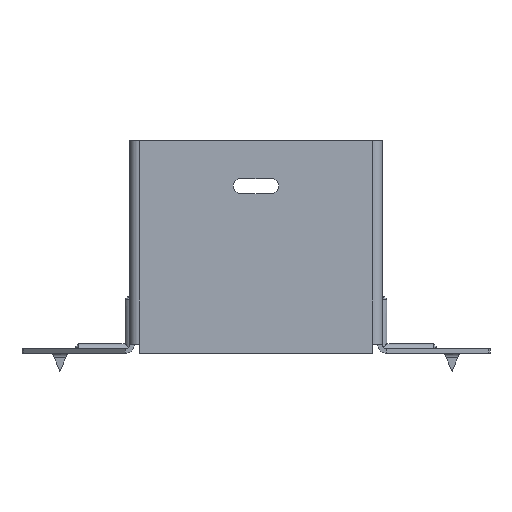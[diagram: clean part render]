
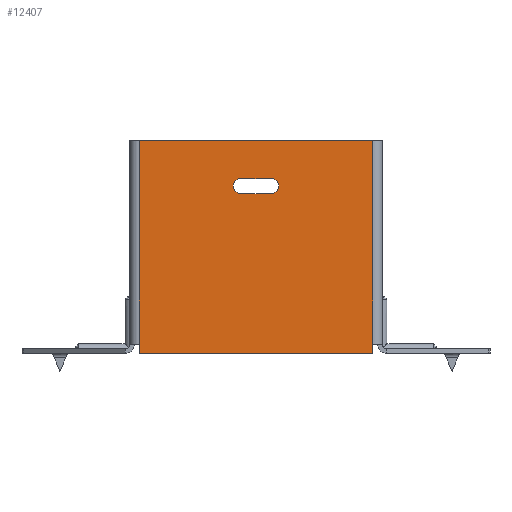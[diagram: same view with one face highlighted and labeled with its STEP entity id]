
A CAD part, front view. The second image highlights one B-rep face of the part: STEP entity #12407.
In plain terms, the highlighted planar face has unit normal (0, -1, 0).
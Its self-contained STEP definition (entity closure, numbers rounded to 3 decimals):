
#188 = CARTESIAN_POINT ( 'NONE',  ( 5., 0., -12.5 ) ) ;
#247 = DIRECTION ( 'NONE',  ( 0., 0., -1. ) ) ;
#558 = VERTEX_POINT ( 'NONE', #18655 ) ;
#651 = VERTEX_POINT ( 'NONE', #14261 ) ;
#681 = ORIENTED_EDGE ( 'NONE', *, *, #7850, .T. ) ;
#773 = DIRECTION ( 'NONE',  ( 0., 0., -1. ) ) ;
#1050 = EDGE_CURVE ( 'NONE', #11151, #8108, #6127, .T. ) ;
#1330 = ORIENTED_EDGE ( 'NONE', *, *, #11593, .T. ) ;
#1410 = FACE_BOUND ( 'NONE', #3388, .T. ) ;
#1460 = ORIENTED_EDGE ( 'NONE', *, *, #15744, .T. ) ;
#1619 = DIRECTION ( 'NONE',  ( 0., 0., 1. ) ) ;
#1853 = EDGE_CURVE ( 'NONE', #14357, #16051, #2053, .T. ) ;
#2053 = LINE ( 'NONE', #17018, #9038 ) ;
#2194 = DIRECTION ( 'NONE',  ( 0., 0., 1. ) ) ;
#2280 = ORIENTED_EDGE ( 'NONE', *, *, #15047, .T. ) ;
#2407 = ORIENTED_EDGE ( 'NONE', *, *, #5898, .F. ) ;
#2551 = LINE ( 'NONE', #15891, #9099 ) ;
#2689 = EDGE_CURVE ( 'NONE', #7103, #651, #8320, .T. ) ;
#3388 = EDGE_LOOP ( 'NONE', ( #10075, #2280, #9000, #681 ) ) ;
#3678 = CARTESIAN_POINT ( 'NONE',  ( -38.5, 0., 0. ) ) ;
#3724 = DIRECTION ( 'NONE',  ( 0., 0., 1. ) ) ;
#3757 = CARTESIAN_POINT ( 'NONE',  ( -38.5, 0., 0. ) ) ;
#3958 = PLANE ( 'NONE',  #16187 ) ;
#5160 = CARTESIAN_POINT ( 'NONE',  ( -5., 0., -15. ) ) ;
#5163 = EDGE_LOOP ( 'NONE', ( #7304, #1330, #15687, #1460, #12340, #2407 ) ) ;
#5363 = VERTEX_POINT ( 'NONE', #11733 ) ;
#5898 = EDGE_CURVE ( 'NONE', #7103, #5363, #7676, .T. ) ;
#6127 = LINE ( 'NONE', #17045, #7487 ) ;
#6855 = CARTESIAN_POINT ( 'NONE',  ( -5., 0., -12.5 ) ) ;
#6938 = CARTESIAN_POINT ( 'NONE',  ( 38.5, 0., -70. ) ) ;
#7103 = VERTEX_POINT ( 'NONE', #3757 ) ;
#7139 = AXIS2_PLACEMENT_3D ( 'NONE', #5160, #18062, #3724 ) ;
#7147 = VERTEX_POINT ( 'NONE', #6938 ) ;
#7304 = ORIENTED_EDGE ( 'NONE', *, *, #2689, .T. ) ;
#7487 = VECTOR ( 'NONE', #14167, 1000. ) ;
#7676 = LINE ( 'NONE', #13413, #17813 ) ;
#7824 = EDGE_CURVE ( 'NONE', #7147, #15212, #13185, .T. ) ;
#7850 = EDGE_CURVE ( 'NONE', #8108, #14357, #16089, .T. ) ;
#7909 = VECTOR ( 'NONE', #773, 1000. ) ;
#8108 = VERTEX_POINT ( 'NONE', #188 ) ;
#8320 = LINE ( 'NONE', #3678, #7909 ) ;
#8435 = VECTOR ( 'NONE', #16297, 1000. ) ;
#8826 = CARTESIAN_POINT ( 'NONE',  ( -5., 0., -17.5 ) ) ;
#9000 = ORIENTED_EDGE ( 'NONE', *, *, #1050, .T. ) ;
#9038 = VECTOR ( 'NONE', #11500, 1000. ) ;
#9099 = VECTOR ( 'NONE', #247, 1000. ) ;
#10075 = ORIENTED_EDGE ( 'NONE', *, *, #1853, .T. ) ;
#10312 = VECTOR ( 'NONE', #1619, 1000. ) ;
#10458 = CARTESIAN_POINT ( 'NONE',  ( -40., 0., -70. ) ) ;
#10521 = DIRECTION ( 'NONE',  ( 1., 0., 0. ) ) ;
#10994 = CARTESIAN_POINT ( 'NONE',  ( 0., 0., 0. ) ) ;
#11151 = VERTEX_POINT ( 'NONE', #6855 ) ;
#11346 = CARTESIAN_POINT ( 'NONE',  ( 5., 0., -17.5 ) ) ;
#11500 = DIRECTION ( 'NONE',  ( -1., 0., 0. ) ) ;
#11593 = EDGE_CURVE ( 'NONE', #651, #15212, #2551, .T. ) ;
#11691 = CARTESIAN_POINT ( 'NONE',  ( -38.5, 0., -70. ) ) ;
#11733 = CARTESIAN_POINT ( 'NONE',  ( 38.5, 0., 0. ) ) ;
#12113 = CARTESIAN_POINT ( 'NONE',  ( 38.5, 0., -70. ) ) ;
#12340 = ORIENTED_EDGE ( 'NONE', *, *, #17933, .T. ) ;
#12407 = ADVANCED_FACE ( 'NONE', ( #1410, #12655 ), #3958, .F. ) ;
#12655 = FACE_OUTER_BOUND ( 'NONE', #5163, .T. ) ;
#13185 = LINE ( 'NONE', #10458, #8435 ) ;
#13413 = CARTESIAN_POINT ( 'NONE',  ( -40., 0., 0. ) ) ;
#13589 = DIRECTION ( 'NONE',  ( 0., 1., 0. ) ) ;
#13692 = LINE ( 'NONE', #14706, #10312 ) ;
#14167 = DIRECTION ( 'NONE',  ( 1., 0., 0. ) ) ;
#14261 = CARTESIAN_POINT ( 'NONE',  ( -38.5, 0., -67. ) ) ;
#14357 = VERTEX_POINT ( 'NONE', #11346 ) ;
#14706 = CARTESIAN_POINT ( 'NONE',  ( 38.5, 0., -70. ) ) ;
#15047 = EDGE_CURVE ( 'NONE', #16051, #11151, #16832, .T. ) ;
#15162 = CARTESIAN_POINT ( 'NONE',  ( 5., 0., -15. ) ) ;
#15212 = VERTEX_POINT ( 'NONE', #11691 ) ;
#15464 = DIRECTION ( 'NONE',  ( 0., 1., 0. ) ) ;
#15687 = ORIENTED_EDGE ( 'NONE', *, *, #7824, .F. ) ;
#15744 = EDGE_CURVE ( 'NONE', #7147, #558, #13692, .T. ) ;
#15891 = CARTESIAN_POINT ( 'NONE',  ( -38.5, 0., 0. ) ) ;
#16051 = VERTEX_POINT ( 'NONE', #8826 ) ;
#16089 = CIRCLE ( 'NONE', #16477, 2.5 ) ;
#16187 = AXIS2_PLACEMENT_3D ( 'NONE', #10994, #15464, #16784 ) ;
#16297 = DIRECTION ( 'NONE',  ( -1., 0., 0. ) ) ;
#16477 = AXIS2_PLACEMENT_3D ( 'NONE', #15162, #13589, #2194 ) ;
#16784 = DIRECTION ( 'NONE',  ( 0., 0., 1. ) ) ;
#16832 = CIRCLE ( 'NONE', #7139, 2.5 ) ;
#17018 = CARTESIAN_POINT ( 'NONE',  ( -5., 0., -17.5 ) ) ;
#17045 = CARTESIAN_POINT ( 'NONE',  ( -5., 0., -12.5 ) ) ;
#17246 = LINE ( 'NONE', #12113, #18143 ) ;
#17813 = VECTOR ( 'NONE', #10521, 1000. ) ;
#17933 = EDGE_CURVE ( 'NONE', #558, #5363, #17246, .T. ) ;
#17975 = DIRECTION ( 'NONE',  ( 0., 0., 1. ) ) ;
#18062 = DIRECTION ( 'NONE',  ( 0., 1., 0. ) ) ;
#18143 = VECTOR ( 'NONE', #17975, 1000. ) ;
#18655 = CARTESIAN_POINT ( 'NONE',  ( 38.5, 0., -67. ) ) ;
